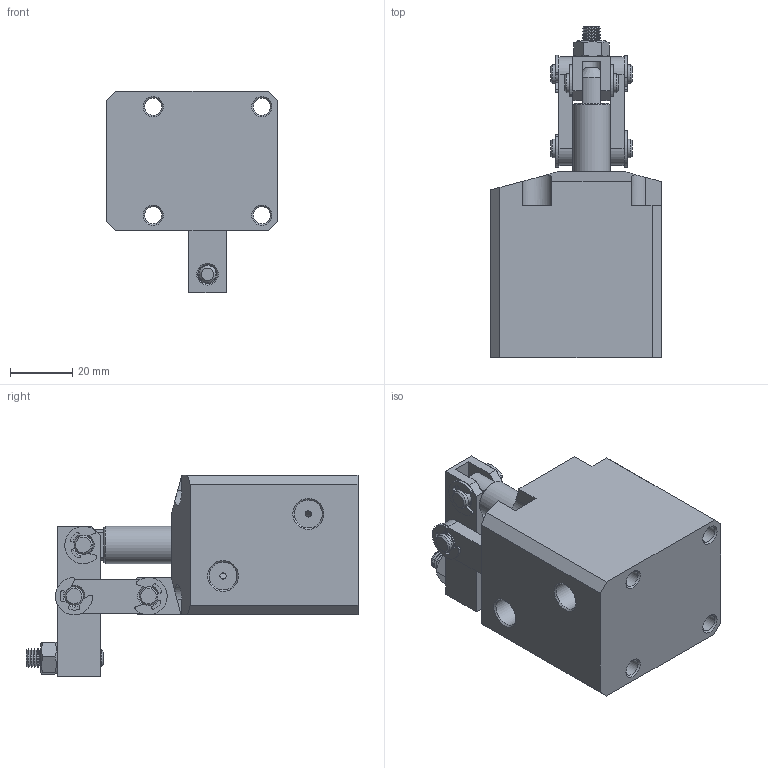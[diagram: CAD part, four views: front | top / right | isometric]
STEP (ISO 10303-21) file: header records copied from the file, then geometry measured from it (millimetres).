
FILE_DESCRIPTION(/* description */ ('STEP AP203'),/* implementation_level */ '2;1');
FILE_NAME(/* name */ 'D:\Vault_2016\Projekty\Clamptek\Hydraulic\CBLU\CBLU-25\STEP\CBLU-25L.stp',/* time_stamp */ '2021-05-06T11:59:03+02:00',/* author */ ('user'),/* organization */ (''),/* preprocessor_version */ 'ST-DEVELOPER v18.1',/* originating_system */ 'Autodesk Inventor 2021',/* authorisation */ '');
FILE_SCHEMA (('AUTOMOTIVE_DESIGN { 1 0 10303 214 3 1 1 }'));
Length unit declared in the file: millimetre
Products named in the file (10): CBLU-25L; CL±¾Ìå_3_1; »îÈû¸Ë_3_1; Ñ¹±Û; Á¬¸Ë; hex nuts, style 1-grades ab gb_GB_FASTENER_NUT_SNAB1 M6-N; ³¤ÏúÖá; ¶ÌÏúÖá; socket set screw flat point_iso2_ISO 4026 - M6 x 4-S; e rings gb_GB_CONNECTING_PIECE_RINGS_HR 6
Assembly tree (17 placements, depth 2):
  CBLU-25L
    CL±¾Ìå_3_1
    »îÈû¸Ë_3_1
    Ñ¹±Û
    Á¬¸Ë  x2
    hex nuts, style 1-grades ab gb_GB_FASTENER_NUT_SNAB1 M6-N
    e rings gb_GB_CONNECTING_PIECE_RINGS_HR 6  x7
    ³¤ÏúÖá  x2
    ¶ÌÏúÖá
    socket set screw flat point_iso2_ISO 4026 - M6 x 4-S
Bounding box: 55 x 107 x 65 mm (x, y, z)
Volume: 140276.8 mm3; surface area: 38747 mm2
Topology: 18 solids, 18 shells, 439 faces, 1113 edges, 729 vertices
Faces by surface type: cylinder 182, plane 162, cone 90, bspline 5
Full cylindrical faces by diameter (mm): 2 x2, 2.5 x1, 4.917 x1, 5 x6, 5.5 x4, 6 x63, 9 x2, 12 x2, 25 x2, 30 x1, 32 x1
Entity records: 13015 total; most frequent: CARTESIAN_POINT 5374, DIRECTION 1596, ORIENTED_EDGE 1482, EDGE_CURVE 741, AXIS2_PLACEMENT_3D 615, VERTEX_POINT 482, LINE 366, VECTOR 366
